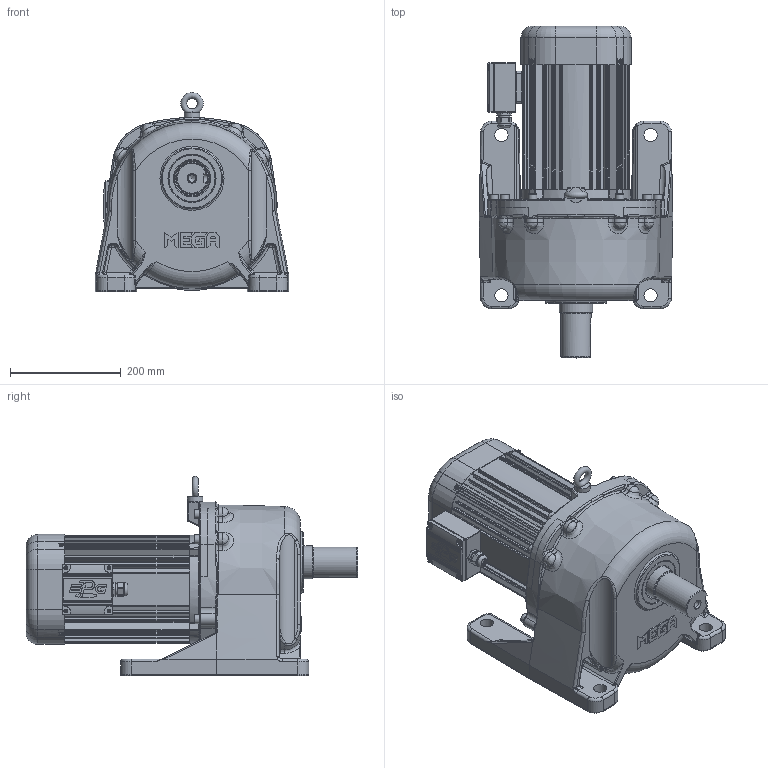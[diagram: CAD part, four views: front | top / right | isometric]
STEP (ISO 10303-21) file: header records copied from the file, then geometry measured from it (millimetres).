
FILE_DESCRIPTION(/* description */ (''),/* implementation_level */ '2;1');
FILE_NAME(/* name */ 'Z:\동력 3D 파일\PML205-(60~120)-PA(B)220[ ]L_(3D).stp',/* time_stamp */ '2021-09-08T13:21:21+09:00',/* author */ ('jaebok'),/* organization */ (''),/* preprocessor_version */ 'ST-DEVELOPER v18.1',/* originating_system */ 'Autodesk Inventor 2022',/* authorisation */ '');
FILE_SCHEMA (('AUTOMOTIVE_DESIGN { 1 0 10303 214 3 1 1 }'));
Length unit declared in the file: millimetre
Products named in the file (1): 부품2
Bounding box: 350 x 600.5 x 360.48 mm (x, y, z)
Volume: 9042704.6 mm3; surface area: 1672223.6 mm2
Topology: 2 solids, 41 shells, 3431 faces, 8593 edges, 5192 vertices
Faces by surface type: plane 1093, cylinder 985, bspline 679, torus 382, cone 174, sphere 118
Full cylindrical faces by diameter (mm): 3.25 x1, 3.5 x4, 3.6 x4, 4 x21, 5 x13, 6 x5, 6.647 x4, 7 x8, 8 x5, 8.376 x9, 9 x4, 10 x9, 10.106 x1, 11 x8, 12 x1, 12.5 x1, 13.835 x1, 15 x1, 16 x8, 20 x2, 21 x1, 23.6 x1, 24 x5, 25 x1, 28 x1, 31 x1, 36 x1, 45 x1, 48 x1, 50 x2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
Entity records: 134037 total; most frequent: CARTESIAN_POINT 51820, ORIENTED_EDGE 16868, DIRECTION 16235, EDGE_CURVE 8434, AXIS2_PLACEMENT_3D 6593, VERTEX_POINT 5192, EDGE_LOOP 3674, CIRCLE 3645
